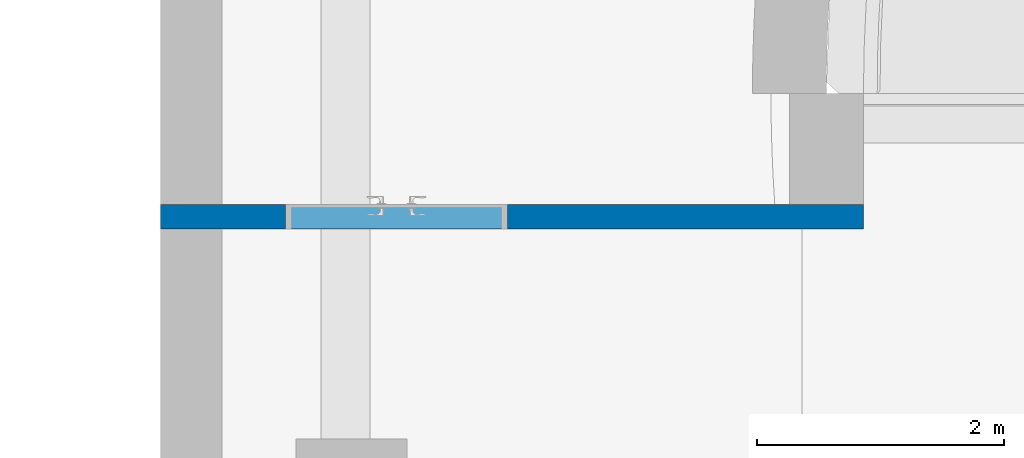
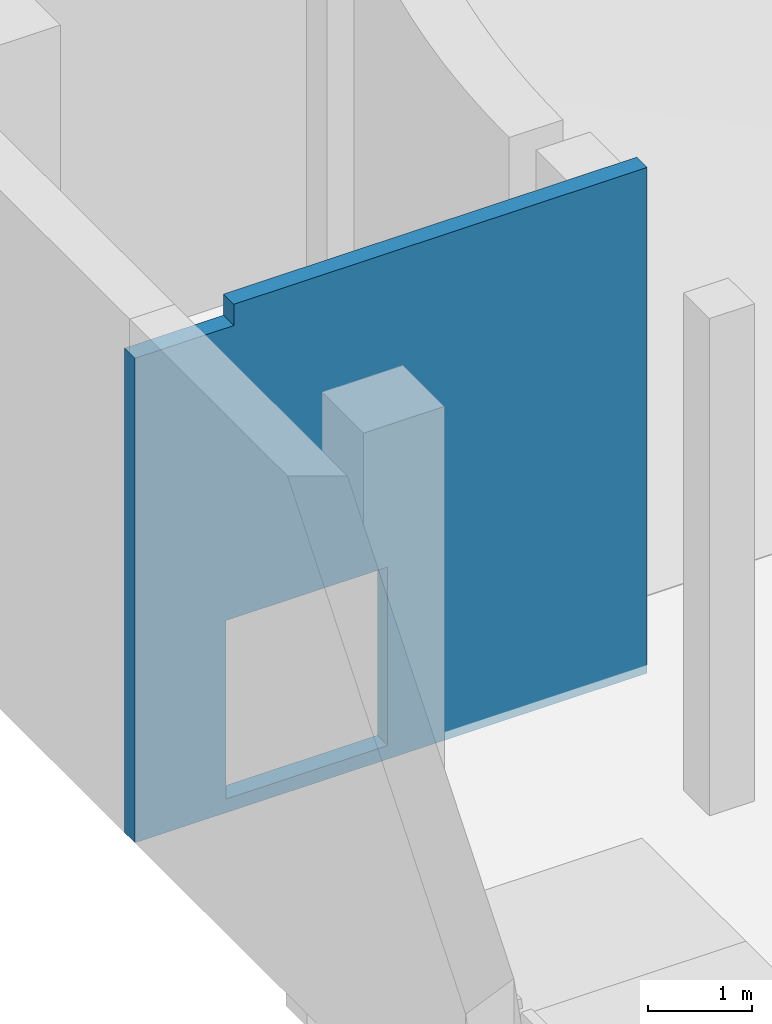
# One storey, part 16 of 29: 1 wall, 1 opening.
"""IFC2X3 building model written with IfcOpenShell, lengths in millimetres."""

import ifcopenshell
import ifcopenshell.guid

model = None  # the IFC model being written
_history = None  # IfcOwnerHistory: only IFC2X3 demands one
_inside = {}  # id of a spatial element -> (the spatial element, [elements in it])
_under = {}  # id of a project, library or spatial element -> (it, [spatial elements below it])
_declared = {}  # id of a project -> (the project, [libraries it declares])
_typed = {}  # id of a type object -> (the type object, [elements of that type])
_made_of = {}  # id of a material, layer set ... -> (it, [elements and type objects made of it])


def new_model(schema):
    """Start an empty IFC model of exactly this schema.

    Asked for "IFC4X3", IfcOpenShell would pick the latest addendum, in which some entities
    have other attributes; the version numbers below select the first issue.
    IFC2X3 requires an IfcOwnerHistory on every rooted entity: one is made here for all.
    """
    global model, _history
    if schema == "IFC4X3":
        model = ifcopenshell.file(schema_version=(4, 3, 0, 0))
    else:
        model = ifcopenshell.file(schema=schema)
    _inside.clear()
    _under.clear()
    _declared.clear()
    _typed.clear()
    _made_of.clear()
    _history = None
    if model.schema == "IFC2X3":
        org = make("IfcOrganization", Name="unknown")
        user = make(
            "IfcPersonAndOrganization",
            ThePerson=make("IfcPerson", FamilyName="unknown"),
            TheOrganization=org,
        )
        app = make(
            "IfcApplication",
            ApplicationDeveloper=org,
            Version="unknown",
            ApplicationFullName="unknown",
            ApplicationIdentifier="unknown",
        )
        _history = make(
            "IfcOwnerHistory",
            OwningUser=user,
            OwningApplication=app,
            ChangeAction="ADDED",
            CreationDate=0,
        )
    return model


def make(cls, **values):
    """One entity of the class cls with the attributes given. An attribute that is None is left unset."""
    return model.create_entity(
        cls, **{name: value for name, value in values.items() if value is not None}
    )


def entity(cls, *values):
    """Any entity or typed value of the class cls, its attributes in the order of the schema. None: left unset."""
    e = model.create_entity(cls)
    for i, value in enumerate(values):
        if value is not None:
            e[i] = value
    return e


def rooted(cls, **values):
    """An entity with a GlobalId (a new one), such as an element, a storey or a relation."""
    return make(cls, GlobalId=ifcopenshell.guid.new(), OwnerHistory=_history, **values)


def si_unit(unit_type, name, prefix=None):
    """IfcSIUnit, for example si_unit("LENGTHUNIT", "METRE", prefix="MILLI")."""
    return make("IfcSIUnit", UnitType=unit_type, Prefix=prefix, Name=name)


def converted_unit(unit_type, name, factor, base, dimensions=None, offset=None):
    """IfcConversionBasedUnit, such as the inch: factor (a typed value) times the base unit."""
    return make(
        "IfcConversionBasedUnit"
        if offset is None
        else "IfcConversionBasedUnitWithOffset",
        ConversionOffset=offset,
        Dimensions=None
        if dimensions is None
        else entity("IfcDimensionalExponents", *dimensions),
        UnitType=unit_type,
        Name=name,
        ConversionFactor=make(
            "IfcMeasureWithUnit", ValueComponent=factor, UnitComponent=base
        ),
    )


def derived_unit(unit_type, elements):
    """IfcDerivedUnit: a product of units, each with its exponent."""
    return make(
        "IfcDerivedUnit",
        Elements=[
            make("IfcDerivedUnitElement", Unit=unit, Exponent=power)
            for unit, power in elements
        ],
        UnitType=unit_type,
    )


def assignment(units):
    """IfcUnitAssignment: the units of a project."""
    return None if units is None else make("IfcUnitAssignment", Units=units)


def point(xyz):
    """IfcCartesianPoint."""
    return None if xyz is None else make("IfcCartesianPoint", Coordinates=xyz)


def direction(xyz):
    """IfcDirection."""
    return None if xyz is None else make("IfcDirection", DirectionRatios=xyz)


def frame(location, z_axis=None, x_axis=None):
    """IfcAxis2Placement3D, a coordinate frame: its origin and axes. An axis left out is left unset."""
    return make(
        "IfcAxis2Placement3D",
        Location=point(location),
        Axis=direction(z_axis),
        RefDirection=direction(x_axis),
    )


def frame_2d(location, x_axis=None):
    """IfcAxis2Placement2D, a coordinate frame in the plane: its origin and x axis."""
    return make(
        "IfcAxis2Placement2D", Location=point(location), RefDirection=direction(x_axis)
    )


def origin():
    """The frame at (0, 0, 0) with its axes left unset."""
    return frame((0.0, 0.0, 0.0))


def place(relative_to, where):
    """IfcLocalPlacement: puts the frame where relative to a parent placement (None: the world)."""
    return make(
        "IfcLocalPlacement", PlacementRelTo=relative_to, RelativePlacement=where
    )


def context(
    kind, dimensions, precision=None, world=None, true_north=None, identifier=None
):
    """IfcGeometricRepresentationContext, for example the 3D "Model" context."""
    return make(
        "IfcGeometricRepresentationContext",
        ContextIdentifier=identifier,
        ContextType=kind,
        CoordinateSpaceDimension=dimensions,
        Precision=precision,
        WorldCoordinateSystem=world,
        TrueNorth=true_north,
    )


def subcontext(parent, identifier, kind, view, scale=None):
    """IfcGeometricRepresentationSubContext, for example "Body" below "Model"."""
    return make(
        "IfcGeometricRepresentationSubContext",
        ContextIdentifier=identifier,
        ContextType=kind,
        ParentContext=parent,
        TargetScale=scale,
        TargetView=view,
    )


def project(units=None, contexts=None):
    """IfcProject with its units and contexts."""
    return rooted(
        "IfcProject",
        Name="project",
        RepresentationContexts=contexts,
        UnitsInContext=assignment(units),
    )


def spatial(cls, under=None, at=None, **own):
    """A site, building, storey or space (cls), placed at a placement, below another one or the project."""
    s = rooted(cls, ObjectPlacement=at, **own)
    if under is not None:
        _under.setdefault(under.id(), (under, []))[1].append(s)
    return s


def profile(cls, at=None, kind="AREA", **sizes):
    """A parametric profile (cls). Its sizes go by their IFC names, for example OverallWidth=200.0."""
    return make(cls, ProfileType=kind, Position=at, **sizes)


def rectangle(**sizes):
    """IfcRectangleProfileDef."""
    return profile("IfcRectangleProfileDef", **sizes)


def extrude(swept, where, along, depth):
    """IfcExtrudedAreaSolid: the profile swept, set in the frame where, extruded along a direction by depth."""
    return make(
        "IfcExtrudedAreaSolid",
        SweptArea=swept,
        Position=where,
        ExtrudedDirection=direction(along),
        Depth=depth,
    )


def faces_of(points, faces, orient=None, outer=None):
    """IfcFace entities. A face is a list of loops; a loop is a list of indices into points, from 0.

    orient and outer hold one flag for each loop. By default every Orientation is true, the
    first loop of a face is its IfcFaceOuterBound and the others are IfcFaceBound.
    """
    made = []
    for i, loops in enumerate(faces):
        bounds = []
        for j, loop in enumerate(loops):
            is_outer = j == 0 if outer is None else outer[i][j]
            bounds.append(
                make(
                    "IfcFaceOuterBound" if is_outer else "IfcFaceBound",
                    Bound=make("IfcPolyLoop", Polygon=[points[k] for k in loop]),
                    Orientation=True if orient is None else orient[i][j],
                )
            )
        made.append(make("IfcFace", Bounds=bounds))
    return made


def faceted_brep(points, faces, orient=None, outer=None, voids=None):
    """IfcFacetedBrep: a solid bounded by flat faces; with voids (closed shells), ...WithVoids."""
    shared = [point(p) for p in points]
    hull = make("IfcClosedShell", CfsFaces=faces_of(shared, faces, orient, outer))
    if voids is None:
        return make("IfcFacetedBrep", Outer=hull)
    return make(
        "IfcFacetedBrepWithVoids",
        Outer=hull,
        Voids=[
            make(cls, CfsFaces=faces_of(shared, fs, o, b)) for cls, fs, o, b in voids
        ],
    )


def shape(context_of_items, identifier, shape_type, items):
    """IfcShapeRepresentation: the items that make up one representation, for example the "Body"."""
    return make(
        "IfcShapeRepresentation",
        ContextOfItems=context_of_items,
        RepresentationIdentifier=identifier,
        RepresentationType=shape_type,
        Items=items,
    )


def material(Name=None, Category=None):
    """IfcMaterial."""
    return make("IfcMaterial", Name=Name, Category=Category)


def layer(
    of_material, thickness, ventilated=None, Name=None, Category=None, Priority=None
):
    """IfcMaterialLayer: one layer of a wall or slab, of a material (None: an air gap)."""
    return make(
        "IfcMaterialLayer",
        Material=of_material,
        LayerThickness=thickness,
        IsVentilated=ventilated,
        Name=Name,
        Category=Category,
        Priority=Priority,
    )


def layer_set(layers, Name=None):
    """IfcMaterialLayerSet."""
    return make("IfcMaterialLayerSet", MaterialLayers=layers, LayerSetName=Name)


def made_of(thing, what):
    """Note that an element or type object is made of a material, layer set ...; save() writes the relation."""
    if what is not None:
        _made_of.setdefault(what.id(), (what, []))[1].append(thing)
    return thing


def type_object(cls, material=None, **own):
    """A type object (cls), such as IfcWallType, which elements share."""
    return made_of(rooted(cls, **own), material)


def element(
    cls,
    number,
    at=None,
    inside=None,
    cuts=None,
    type_object=None,
    material=None,
    context=None,
    identifier="Body",
    shape_type=None,
    held_by="IfcProductDefinitionShape",
    body=None,
    shapes=None,
    **own,
):
    """One element of the class cls, such as IfcWall. Its Tag is "e" and its number.

    at: its placement. inside: the storey or other place that contains it. cuts: it is an
    opening in that element (IfcRelVoidsElement). A single representation is given by context,
    identifier, shape_type and body (its items); several are given by shapes. held_by: the class
    of the entity that holds the representations. save() writes the other relations.
    """
    e = rooted(cls, Tag="e%d" % number, ObjectPlacement=at, **own)
    if body is not None:
        shapes = [shape(context, identifier, shape_type, body)]
    if shapes is not None:
        e.Representation = make(held_by, Representations=shapes)
    if inside is not None:
        _inside.setdefault(inside.id(), (inside, []))[1].append(e)
    if cuts is not None:
        rooted(
            "IfcRelVoidsElement", RelatingBuildingElement=cuts, RelatedOpeningElement=e
        )
    if type_object is not None:
        _typed.setdefault(type_object.id(), (type_object, []))[1].append(e)
    return made_of(e, material)


def aggregate(whole, parts):
    """IfcRelAggregates: a whole, such as a stair, and the parts it consists of."""
    return rooted("IfcRelAggregates", RelatingObject=whole, RelatedObjects=parts)


def save(model, path):
    """Write the relations noted so far, then the file.

    IfcRelAggregates (storeys below a building ...), IfcRelContainedInSpatialStructure (elements
    in a storey), IfcRelDefinesByType, IfcRelAssociatesMaterial and IfcRelDeclares: one each for
    every whole, place, type object, material and project.
    """
    for whole, parts in _under.values():
        aggregate(whole, parts)
    for where, things in _inside.values():
        rooted(
            "IfcRelContainedInSpatialStructure",
            RelatedElements=things,
            RelatingStructure=where,
        )
    for kind, things in _typed.values():
        rooted("IfcRelDefinesByType", RelatedObjects=things, RelatingType=kind)
    for what, things in _made_of.values():
        rooted("IfcRelAssociatesMaterial", RelatedObjects=things, RelatingMaterial=what)
    for by, libraries in _declared.values():
        rooted("IfcRelDeclares", RelatingContext=by, RelatedDefinitions=libraries)
    model.write(path)


model = new_model("IFC2X3")

# Units and contexts
model_context = context("Model", 3, precision=0.01, world=origin(), true_north=direction((6.123031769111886e-17, 1.0)))
body_context = subcontext(model_context, "Body", "Model", "MODEL_VIEW")
ifc_project = project(units=[si_unit("LENGTHUNIT", "METRE", prefix="MILLI"), si_unit("AREAUNIT", "SQUARE_METRE"), si_unit("VOLUMEUNIT", "CUBIC_METRE"), converted_unit("PLANEANGLEUNIT", "DEGREE", entity("IfcRatioMeasure", 0.017453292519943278), si_unit("PLANEANGLEUNIT", "RADIAN"), dimensions=[0, 0, 0, 0, 0, 0, 0]), si_unit("MASSUNIT", "GRAM", prefix="KILO"), derived_unit("MASSDENSITYUNIT", [(si_unit("MASSUNIT", "GRAM", prefix="KILO"), 1), (si_unit("LENGTHUNIT", "METRE"), -3)]), derived_unit("MOMENTOFINERTIAUNIT", [(si_unit("LENGTHUNIT", "METRE"), 4)]), si_unit("TIMEUNIT", "SECOND"), si_unit("FREQUENCYUNIT", "HERTZ"), si_unit("THERMODYNAMICTEMPERATUREUNIT", "DEGREE_CELSIUS"), derived_unit("THERMALTRANSMITTANCEUNIT", [(si_unit("MASSUNIT", "GRAM", prefix="KILO"), 1), (si_unit("THERMODYNAMICTEMPERATUREUNIT", "KELVIN"), -1), (si_unit("TIMEUNIT", "SECOND"), -3)]), derived_unit("VOLUMETRICFLOWRATEUNIT", [(si_unit("LENGTHUNIT", "METRE"), 3), (si_unit("TIMEUNIT", "SECOND"), -1)]), derived_unit("MASSFLOWRATEUNIT", [(si_unit("MASSUNIT", "GRAM", prefix="KILO"), 1), (si_unit("TIMEUNIT", "SECOND"), -1)]), derived_unit("ROTATIONALFREQUENCYUNIT", [(si_unit("TIMEUNIT", "SECOND"), -1)]), si_unit("ELECTRICCURRENTUNIT", "AMPERE"), si_unit("ELECTRICVOLTAGEUNIT", "VOLT"), si_unit("POWERUNIT", "WATT"), si_unit("FORCEUNIT", "NEWTON", prefix="KILO"), si_unit("ILLUMINANCEUNIT", "LUX"), si_unit("LUMINOUSFLUXUNIT", "LUMEN"), si_unit("LUMINOUSINTENSITYUNIT", "CANDELA"), derived_unit("USERDEFINED", [(si_unit("MASSUNIT", "GRAM", prefix="KILO"), -1), (si_unit("LENGTHUNIT", "METRE"), -2), (si_unit("TIMEUNIT", "SECOND"), 3), (si_unit("LUMINOUSFLUXUNIT", "LUMEN"), 1)]), derived_unit("SOUNDPOWERUNIT", [(si_unit("MASSUNIT", "GRAM", prefix="KILO"), 1), (si_unit("LENGTHUNIT", "METRE"), 2), (si_unit("TIMEUNIT", "SECOND"), -3)]), derived_unit("SOUNDPRESSUREUNIT", [(si_unit("MASSUNIT", "GRAM", prefix="KILO"), 1), (si_unit("LENGTHUNIT", "METRE"), -1), (si_unit("TIMEUNIT", "SECOND"), -2)]), derived_unit("LINEARVELOCITYUNIT", [(si_unit("LENGTHUNIT", "METRE"), 1), (si_unit("TIMEUNIT", "SECOND"), -1)]), si_unit("PRESSUREUNIT", "PASCAL"), derived_unit("USERDEFINED", [(si_unit("LENGTHUNIT", "METRE"), -2), (si_unit("MASSUNIT", "GRAM", prefix="KILO"), 1), (si_unit("TIMEUNIT", "SECOND"), -2)]), derived_unit("LINEARFORCEUNIT", [(si_unit("MASSUNIT", "GRAM", prefix="KILO"), 1), (si_unit("LENGTHUNIT", "METRE"), 1), (si_unit("TIMEUNIT", "SECOND"), -2), (si_unit("LENGTHUNIT", "METRE"), -1)]), derived_unit("PLANARFORCEUNIT", [(si_unit("MASSUNIT", "GRAM", prefix="KILO"), 1), (si_unit("LENGTHUNIT", "METRE"), 1), (si_unit("TIMEUNIT", "SECOND"), -2), (si_unit("LENGTHUNIT", "METRE"), -2)])], contexts=[model_context])

# Site, building, storey
site_placement = place(None, frame((-14167.972527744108, -657.2125860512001, 0.0)))
site = spatial("IfcSite", under=ifc_project, at=site_placement, Name="Default", CompositionType="ELEMENT")
building_placement = place(site_placement, origin())
building = spatial("IfcBuilding", under=site, at=building_placement, Name="Sample Building", CompositionType="ELEMENT")
storey_placement = place(building_placement, frame((0.0, 0.0, -6100.0)))
storey = spatial("IfcBuildingStorey", under=building, at=storey_placement, Name="지하1층", CompositionType="ELEMENT", Elevation=-6099.999999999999)

# Wall, opening
ifc_material = material(Name="KBIMS-콘크리트")
ifc_layer = layer(ifc_material, 200.0)
ifc_layer_set = layer_set([ifc_layer], Name="기본 벽:WA111-철근콘크리트구조 벽 200mm_W1")
wall_type = type_object("IfcWallType", Name="기본 벽:WA111-철근콘크리트구조 벽 200mm_W1", PredefinedType="STANDARD", material=ifc_layer_set)
wall_placement = place(storey_placement, frame((18667.963798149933, 22157.21230798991, 0.0), z_axis=(0.0, 0.0, 1.0), x_axis=(-1.0, 0.0, 0.0)))
wall = element("IfcWall", 1, at=wall_placement, inside=storey, type_object=wall_type, Name="기본 벽:WA111-철근콘크리트구조 벽 200mm_W1", ObjectType="기본 벽:WA111-철근콘크리트구조 벽 200mm_W1", context=body_context, shape_type="Brep", body=[
    faceted_brep([(0.0, -100.0, 0.0), (600.0, -100.0, 0.0), (5199.991307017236, -100.0, 0.0), (5699.991307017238, -100.0, 0.0), (5699.991307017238, -100.0, 5700.0), (5199.991307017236, -100.0, 5700.0), (4600.0, -100.0, 5700.0), (4600.0, -100.0, 5950.0), (546.125070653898, -100.0, 5950.0), (478.46652746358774, -100.0, 5950.0), (77.56691582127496, -100.0, 5950.0), (0.0, -100.0, 5950.0), (0.0, -100.0, 5700.0), (2887.1750509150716, -100.0, 160.0), (2887.1750509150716, -100.0, 2260.0), (4687.175050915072, -100.0, 2260.0), (4687.175050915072, -100.0, 160.0), (2887.1750509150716, 100.0, 2260.0), (2887.1750509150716, 100.0, 160.0), (4687.175050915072, 100.0, 160.0), (4687.175050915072, 100.0, 2260.0), (0.0, 100.0, 5950.0), (90.98796845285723, 100.0, 5950.0), (491.88758009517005, 100.0, 5950.0), (559.5461232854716, 100.0, 5950.0), (4600.0, 100.0, 5950.0), (4600.0, 100.0, 5700.0), (5199.991307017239, 100.0, 5700.0), (5699.991307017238, 100.0, 5700.0), (5699.991307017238, 100.0, 0.0), (5199.991307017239, 100.0, 0.0), (0.0, 100.0, 0.0), (5699.991307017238, 0.0, 5700.0)], [[[0, 1, 2, 3, 4, 5, 6, 7, 8, 9, 10, 11, 12], [13, 14, 15, 16]], [[17, 18, 19, 20], [21, 22, 23, 24, 25, 26, 27, 28, 29, 30, 31]], [[0, 12, 11, 21, 31]], [[4, 3, 29, 28, 32]], [[14, 13, 18, 17]], [[15, 14, 17, 20]], [[16, 15, 20, 19]], [[13, 16, 19, 18]], [[3, 2, 1, 0, 31, 30, 29]], [[11, 10, 9, 8, 7, 25, 24, 23, 22, 21]], [[6, 5, 4, 32, 28, 27, 26]], [[7, 6, 26, 25]]], outer=[[True, False], [False, True], [True], [True], [True], [True], [True], [True], [True], [True], [True], [True]]),
])
opening_placement = place(wall_placement, frame((4687.175050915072, 100.0, 160.0)))
element("IfcOpeningElement", 2, at=opening_placement, cuts=wall, Name="DR121-쌍여닫이문(철재, 방화문):DR121-쌍여닫이문(철재, 방화문) 1800x2100mm:1", ObjectType="Opening", context=body_context, shape_type="SweptSolid", body=[
    extrude(rectangle(XDim=2099.999999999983, YDim=1799.9999999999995, at=frame_2d((1049.9999999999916, 899.9999999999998), x_axis=(1.0, 0.0))), frame((0.0, 0.0, 0.0), z_axis=(0.0, -1.0, 0.0), x_axis=(0.0, 0.0, 1.0)), (0.0, 0.0, 1.0), 200.0),
])

save(model, "model.ifc")
